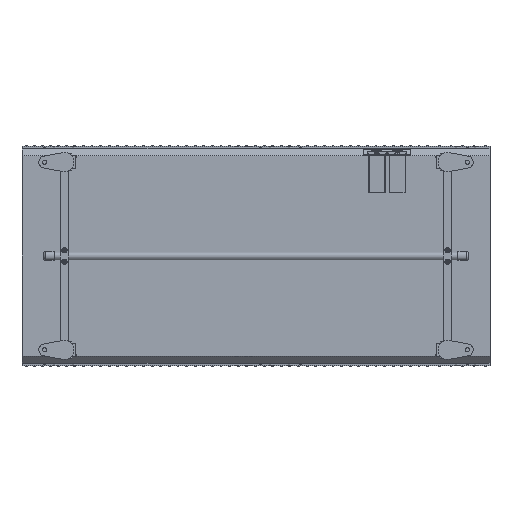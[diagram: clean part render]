
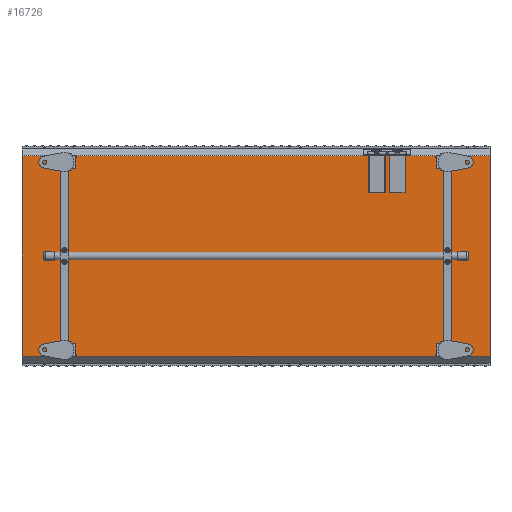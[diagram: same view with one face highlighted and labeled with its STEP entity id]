
A CAD part, front view. The second image highlights one B-rep face of the part: STEP entity #16726.
In plain terms, the highlighted planar face has unit normal (0, -1, 0).
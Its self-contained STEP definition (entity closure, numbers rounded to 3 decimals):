
#1269 = LINE ( 'NONE', #68343, #42749 ) ;
#1452 = VERTEX_POINT ( 'NONE', #49989 ) ;
#3388 = CARTESIAN_POINT ( 'NONE',  ( 1490., -215.213, -319.787 ) ) ;
#5469 = VERTEX_POINT ( 'NONE', #59299 ) ;
#7510 = DIRECTION ( 'NONE',  ( 0., 0., 1. ) ) ;
#16726 = ADVANCED_FACE ( 'NONE', ( #65454 ), #39358, .F. ) ;
#17360 = CARTESIAN_POINT ( 'NONE',  ( 2210.933, -215.213, 319.787 ) ) ;
#22234 = DIRECTION ( 'NONE',  ( 0., 1., 0. ) ) ;
#23354 = CARTESIAN_POINT ( 'NONE',  ( 0., -215.213, 319.787 ) ) ;
#23920 = EDGE_CURVE ( 'NONE', #60592, #5469, #38476, .T. ) ;
#26699 = AXIS2_PLACEMENT_3D ( 'NONE', #17360, #22234, #28741 ) ;
#27488 = ORIENTED_EDGE ( 'NONE', *, *, #68328, .T. ) ;
#28741 = DIRECTION ( 'NONE',  ( 0., 0., 1. ) ) ;
#28960 = EDGE_CURVE ( 'NONE', #66626, #5469, #64479, .T. ) ;
#29129 = VECTOR ( 'NONE', #61641, 1000. ) ;
#29905 = CARTESIAN_POINT ( 'NONE',  ( 0., -215.213, 319.787 ) ) ;
#31241 = CARTESIAN_POINT ( 'NONE',  ( 2210.933, -215.213, 319.787 ) ) ;
#32032 = EDGE_CURVE ( 'NONE', #66626, #1452, #1269, .T. ) ;
#38476 = LINE ( 'NONE', #29905, #44423 ) ;
#39358 = PLANE ( 'NONE',  #26699 ) ;
#39716 = CARTESIAN_POINT ( 'NONE',  ( 1490., -215.213, -319.787 ) ) ;
#42749 = VECTOR ( 'NONE', #7510, 1000. ) ;
#43328 = ORIENTED_EDGE ( 'NONE', *, *, #28960, .F. ) ;
#44423 = VECTOR ( 'NONE', #46492, 1000. ) ;
#46492 = DIRECTION ( 'NONE',  ( 0., 0., -1. ) ) ;
#48647 = ORIENTED_EDGE ( 'NONE', *, *, #32032, .T. ) ;
#49277 = DIRECTION ( 'NONE',  ( -1., 0., 0. ) ) ;
#49989 = CARTESIAN_POINT ( 'NONE',  ( 1490., -215.213, 319.787 ) ) ;
#52334 = EDGE_LOOP ( 'NONE', ( #43328, #48647, #27488, #71059 ) ) ;
#59299 = CARTESIAN_POINT ( 'NONE',  ( 0., -215.213, -319.787 ) ) ;
#60485 = VECTOR ( 'NONE', #49277, 1000. ) ;
#60592 = VERTEX_POINT ( 'NONE', #23354 ) ;
#61641 = DIRECTION ( 'NONE',  ( -1., 0., 0. ) ) ;
#64479 = LINE ( 'NONE', #39716, #29129 ) ;
#65454 = FACE_OUTER_BOUND ( 'NONE', #52334, .T. ) ;
#66626 = VERTEX_POINT ( 'NONE', #3388 ) ;
#68274 = LINE ( 'NONE', #31241, #60485 ) ;
#68328 = EDGE_CURVE ( 'NONE', #1452, #60592, #68274, .T. ) ;
#68343 = CARTESIAN_POINT ( 'NONE',  ( 1490., -215.213, 319.787 ) ) ;
#71059 = ORIENTED_EDGE ( 'NONE', *, *, #23920, .T. ) ;
